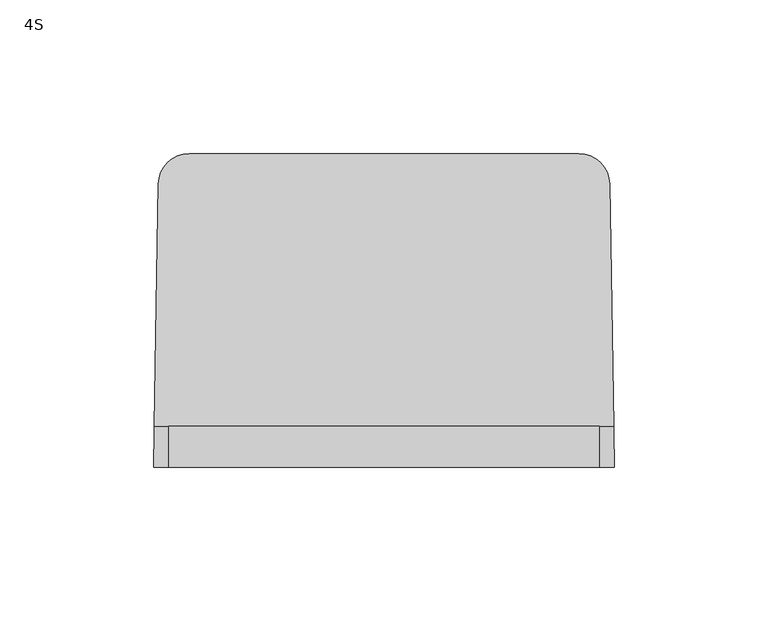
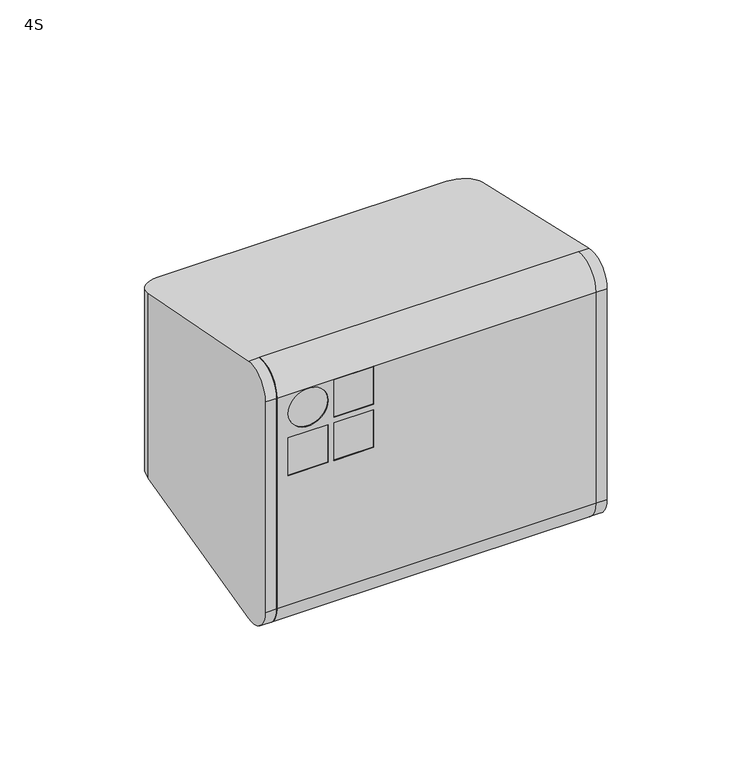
"""IFC4 building model written with IfcOpenShell, lengths in millimetres: proxy geometry, d&b xS-Series 4S Point Source : 4S."""

from ifc_helpers import new_model, si_unit, point, frame, frame_2d, origin, place, context, project, spatial, polyline, circle_curve, ellipse_curve, trimmed, segment, composite_curve, outline, extrude, source, transform, mapped, element, save
from ifc_brep_helpers import plane_surface, cylinder_surface, revolved_surface, advanced_brep


def proxy_4s_222f0351(model_context):
    return source(origin(), model_context, "Body", "SolidModel", [
        extrude(outline(composite_curve([segment(polyline([(-37.7129714, 54.4631575), (-37.7129714, -54.4631575)]), True, "CONTINUOUS"), segment(trimmed(circle_curve(frame_2d((-40.0, -48.9161313)), 6.0), [point((-37.7129714, -54.4631575))], [point((-46.0, -48.9161313))], False, "CARTESIAN"), True, "CONTINUOUS"), segment(polyline([(-46.0, -48.9161313), (-46.0, 48.9161313)]), True, "CONTINUOUS"), segment(trimmed(circle_curve(frame_2d((-40.0, 48.9161313)), 6.0), [point((-46.0, 48.9161313))], [point((-37.7129714, 54.4631575))], False, "CARTESIAN"), True, "CONTINUOUS")], self_intersect=False)), frame((-70.0, 0.0, 0.0), z_axis=(1.0, 0.0, 0.0), x_axis=(0.0, 1.0, 0.0)), (0.0, 0.0, 1.0), 140.0),
        advanced_brep(
        [(-27.5, -51.0, 31.1772445), (-27.5, -46.0, 31.1772445), (-45.0, -46.0, 31.1772445), (-45.0, -51.0, 31.1772445), (-45.0, -46.0, 48.6772445), (-45.0, -51.0, 48.6772445), (-27.5, -46.0, 48.6772445), (-27.5, -51.0, 48.6772445), (-27.5, -51.0, 11.1772445), (-27.5, -46.0, 11.1772445), (-45.0, -46.0, 11.1772445), (-45.0, -51.0, 11.1772445), (-45.0, -46.0, 28.6772445), (-45.0, -51.0, 28.6772445), (-27.5, -46.0, 28.6772445), (-27.5, -51.0, 28.6772445), (-47.5, -51.0, 11.1772445), (-47.5, -46.0, 11.1772445), (-65.0, -46.0, 11.1772445), (-65.0, -51.0, 11.1772445), (-65.0, -46.0, 28.6772445), (-65.0, -51.0, 28.6772445), (-47.5, -46.0, 28.6772445), (-47.5, -51.0, 28.6772445), (-65.0, -51.0, 39.9272445), (-65.0, -46.0, 39.9272445), (-47.5, -46.0, 39.9272445), (-47.5, -51.0, 39.9272445), (70.0, -51.0, -48.9161313), (70.0, -37.7129714, -59.6757549), (70.0, -37.7129714, -54.4631575), (70.0, -46.0, -48.9161313), (70.0, -46.0, 48.9161313), (70.0, -37.7129714, 54.4631575), (70.0, -37.7129714, 59.6757549), (70.0, -51.0, 48.9161313), (-70.0, -51.0, -48.9161313), (-70.0, -51.0, 48.9161313), (-70.0, -37.7129714, 59.6757549), (-70.0, -37.7129714, 54.4631575), (-70.0, -46.0, 48.9161313), (-70.0, -46.0, -48.9161313), (-70.0, -37.7129714, -54.4631575), (-70.0, -37.7129714, -59.6757549)],
        [
            (0, 1),
            (1, 2),
            (2, 3),
            (3, 0),
            (2, 4),
            (4, 5),
            (5, 3),
            (4, 6),
            (6, 7),
            (7, 5),
            (0, 7),
            (6, 1),
            (8, 9),
            (9, 10),
            (10, 11),
            (11, 8),
            (10, 12),
            (12, 13),
            (13, 11),
            (12, 14),
            (14, 15),
            (15, 13),
            (8, 15),
            (14, 9),
            (16, 17),
            (17, 18),
            (18, 19),
            (19, 16),
            (18, 20),
            (20, 21),
            (21, 19),
            (20, 22),
            (22, 23),
            (23, 21),
            (16, 23),
            (22, 17),
            (24, 25),
            (25, 26, circle_curve(frame((-56.25, -46.0, 39.9272445), z_axis=(0.0, 1.0, 0.0), x_axis=(1.0, 0.0, 0.0)), 8.75)),
            (26, 27),
            (27, 24, circle_curve(frame((-56.25, -51.0, 39.9272445), z_axis=(0.0, -1.0, 0.0), x_axis=(1.0, 0.0, 0.0)), 8.75)),
            (24, 27, circle_curve(frame((-56.25, -51.0, 39.9272445), z_axis=(0.0, -1.0, 0.0), x_axis=(1.0, 0.0, 0.0)), 8.75)),
            (26, 25, circle_curve(frame((-56.25, -46.0, 39.9272445), z_axis=(0.0, 1.0, 0.0), x_axis=(1.0, 0.0, 0.0)), 8.75)),
            (28, 29, circle_curve(frame((70.0, -40.0, -48.9161313), z_axis=(1.0, 0.0, 0.0), x_axis=(0.0, -1.0, 0.0)), 11.0)),
            (29, 30),
            (30, 31, circle_curve(frame((70.0, -40.0, -48.9161313), z_axis=(-1.0, 0.0, 0.0), x_axis=(0.0, -1.0, 0.0)), 6.0)),
            (31, 32),
            (32, 33, circle_curve(frame((70.0, -40.0, 48.9161313), z_axis=(-1.0, 0.0, 0.0), x_axis=(0.0, -1.0, 0.0)), 6.0)),
            (33, 34),
            (34, 35, circle_curve(frame((70.0, -40.0, 48.9161313), z_axis=(1.0, 0.0, 0.0), x_axis=(0.0, -1.0, 0.0)), 11.0)),
            (35, 28),
            (36, 37),
            (37, 38, circle_curve(frame((-70.0, -40.0, 48.9161313), z_axis=(-1.0, 0.0, 0.0), x_axis=(0.0, -1.0, 0.0)), 11.0)),
            (38, 39),
            (39, 40, circle_curve(frame((-70.0, -40.0, 48.9161313), z_axis=(1.0, 0.0, 0.0), x_axis=(0.0, -1.0, 0.0)), 6.0)),
            (40, 41),
            (41, 42, circle_curve(frame((-70.0, -40.0, -48.9161313), z_axis=(1.0, 0.0, 0.0), x_axis=(0.0, -1.0, 0.0)), 6.0)),
            (42, 43),
            (43, 36, circle_curve(frame((-70.0, -40.0, -48.9161313), z_axis=(-1.0, 0.0, 0.0), x_axis=(0.0, -1.0, 0.0)), 11.0)),
            (28, 36),
            (43, 29),
            (42, 30),
            (41, 31),
            (40, 32),
            (39, 33),
            (38, 34),
            (37, 35),
        ],
        [
            plane_surface(frame((-45.0, -51.0, 31.1772445), z_axis=(0.0, 0.0, 1.0), x_axis=(0.0, 1.0, 0.0))),
            plane_surface(frame((-45.0, -51.0, 48.6772445), z_axis=(1.0, 0.0, 0.0), x_axis=(0.0, 1.0, 0.0))),
            plane_surface(frame((-27.5, -51.0, 48.6772445), z_axis=(0.0, 0.0, -1.0), x_axis=(0.0, 1.0, 0.0))),
            plane_surface(frame((-27.5, -51.0, 31.1772445), z_axis=(-1.0, 0.0, 0.0), x_axis=(0.0, 1.0, 0.0))),
            plane_surface(frame((-45.0, -51.0, 11.1772445), z_axis=(0.0, 0.0, 1.0), x_axis=(0.0, 1.0, 0.0))),
            plane_surface(frame((-45.0, -51.0, 28.6772445), z_axis=(1.0, 0.0, 0.0), x_axis=(0.0, 1.0, 0.0))),
            plane_surface(frame((-27.5, -51.0, 28.6772445), z_axis=(0.0, 0.0, -1.0), x_axis=(0.0, 1.0, 0.0))),
            plane_surface(frame((-27.5, -51.0, 11.1772445), z_axis=(-1.0, 0.0, 0.0), x_axis=(0.0, 1.0, 0.0))),
            plane_surface(frame((-65.0, -51.0, 11.1772445), z_axis=(0.0, 0.0, 1.0), x_axis=(0.0, 1.0, 0.0))),
            plane_surface(frame((-65.0, -51.0, 28.6772445), z_axis=(1.0, 0.0, 0.0), x_axis=(0.0, 1.0, 0.0))),
            plane_surface(frame((-47.5, -51.0, 28.6772445), z_axis=(0.0, 0.0, -1.0), x_axis=(0.0, 1.0, 0.0))),
            plane_surface(frame((-47.5, -51.0, 11.1772445), z_axis=(-1.0, 0.0, 0.0), x_axis=(0.0, 1.0, 0.0))),
            revolved_surface(polyline([(-47.5, -51.0, 39.9272445), (-47.5, -46.0, 39.9272445)]), (-56.25, -142.2477083, 39.9272445), (0.0, -1.0, 0.0)),
            plane_surface(frame((70.0, -51.0, -48.9161313), z_axis=(1.0, 0.0, 0.0), x_axis=(0.0, 0.0, -1.0))),
            plane_surface(frame((-70.0, -51.0, -48.9161313), z_axis=(-1.0, 0.0, 0.0), x_axis=(0.0, 0.0, 1.0))),
            cylinder_surface(frame((-70.0, -40.0, -48.9161313), z_axis=(1.0, 0.0, 0.0), x_axis=(0.0, -1.0, 0.0)), 11.0),
            plane_surface(frame((70.0, -37.7129714, -59.6757549), z_axis=(0.0, 1.0, 0.0), x_axis=(-1.0, 0.0, 0.0))),
            revolved_surface(polyline([(-70.0, -46.0, -48.9161313), (70.0, -46.0, -48.9161313)]), (-70.0, -40.0, -48.9161313), (-1.0, 0.0, 0.0)),
            plane_surface(frame((70.0, -46.0, -48.9161313), z_axis=(0.0, 1.0, 0.0), x_axis=(-1.0, 0.0, 0.0))),
            revolved_surface(polyline([(-70.0, -46.0, 48.9161313), (70.0, -46.0, 48.9161313)]), (-70.0, -40.0, 48.9161313), (-1.0, 0.0, 0.0)),
            plane_surface(frame((70.0, -37.7129714, 54.4631575), z_axis=(0.0, 1.0, 0.0), x_axis=(-1.0, 0.0, 0.0))),
            cylinder_surface(frame((-70.0, -40.0, 48.9161313), z_axis=(1.0, 0.0, 0.0), x_axis=(0.0, -1.0, 0.0)), 11.0),
            plane_surface(frame((70.0, -51.0, 48.9161313), z_axis=(0.0, -1.0, 0.0), x_axis=(-1.0, 0.0, 0.0))),
        ],
        [
            (0, [[1, 2, 3, 4]]),
            (1, [[-3, 5, 6, 7]]),
            (2, [[-6, 8, 9, 10]]),
            (3, [[-1, 11, -9, 12]]),
            (4, [[13, 14, 15, 16]]),
            (5, [[-15, 17, 18, 19]]),
            (6, [[-18, 20, 21, 22]]),
            (7, [[-13, 23, -21, 24]]),
            (8, [[25, 26, 27, 28]]),
            (9, [[-27, 29, 30, 31]]),
            (10, [[-30, 32, 33, 34]]),
            (11, [[-25, 35, -33, 36]]),
            (12, [[37, 38, 39, 40]]),
            (12, [[-37, 41, -39, 42]]),
            (13, [[43, 44, 45, 46, 47, 48, 49, 50]]),
            (14, [[51, 52, 53, 54, 55, 56, 57, 58]]),
            (15, [[-43, 59, -58, 60]]),
            (16, [[-44, -60, -57, 61]]),
            (17, [[-45, -61, -56, 62]]),
            (18, [[-46, -62, -55, 63], [-2, -12, -8, -5], [-14, -24, -20, -17], [-26, -36, -32, -29], [-38, -42]]),
            (19, [[-47, -63, -54, 64]]),
            (20, [[-48, -64, -53, 65]]),
            (21, [[-49, -65, -52, 66]]),
            (22, [[-50, -66, -51, -59], [-4, -7, -10, -11], [-16, -19, -22, -23], [-28, -31, -34, -35], [-40, -41]]),
        ],
    ),
        extrude(outline(polyline([(-27.5, -51.0), (-45.0, -51.0), (-45.0, -46.0), (-27.5, -46.0), (-27.5, -51.0)])), frame((0.0, 0.0, 31.1622558), z_axis=(0.0, 0.0, 1.0), x_axis=(1.0, 0.0, 0.0)), (0.0, 0.0, 1.0), 17.5),
        extrude(outline(polyline([(-27.5, -51.0), (-45.0, -51.0), (-45.0, -46.0), (-27.5, -46.0), (-27.5, -51.0)])), frame((0.0, 0.0, 11.1622558), z_axis=(0.0, 0.0, 1.0), x_axis=(1.0, 0.0, 0.0)), (0.0, 0.0, 1.0), 17.5),
        extrude(outline(polyline([(-47.5, -51.0), (-65.0, -51.0), (-65.0, -46.0), (-47.5, -46.0), (-47.5, -51.0)])), frame((0.0, 0.0, 11.1622558), z_axis=(0.0, 0.0, 1.0), x_axis=(1.0, 0.0, 0.0)), (0.0, 0.0, 1.0), 17.5),
        extrude(outline(composite_curve([segment(trimmed(circle_curve(frame_2d((39.9122558, -56.25)), 8.75), [point((39.9122558, -65.0))], [point((39.9122558, -47.5))], False, "CARTESIAN"), True, "CONTINUOUS"), segment(trimmed(circle_curve(frame_2d((39.9122558, -56.25)), 8.75), [point((39.9122558, -47.5))], [point((39.9122558, -65.0))], False, "CARTESIAN"), True, "CONTINUOUS")], self_intersect=False)), frame((0.0, -51.0, 0.0), z_axis=(0.0, 1.0, 0.0), x_axis=(0.0, 0.0, 1.0)), (0.0, 0.0, 1.0), 5.0),
        advanced_brep(
        [(57.4298657, 48.0, 23.0610927), (62.4298657, 48.0, 18.0610927), (62.4298657, 48.0, -18.0610927), (57.4298657, 48.0, -23.0610927), (-29.0610927, 48.0, -23.0610927), (-34.0610927, 48.0, -18.0610927), (-34.0610927, 48.0, 18.0610927), (-29.0610927, 48.0, 23.0610927), (-32.4913486, 48.0, 16.4913486), (-32.4913486, 48.0, -16.4913486), (-27.4913486, 48.0, -21.4913486), (-0.0804502, 48.0, -21.4913486), (-0.0804502, 48.0, 21.4913486), (-27.4913486, 48.0, 21.4913486), (57.4298657, 51.0, 23.0610927), (62.4298657, 51.0, 18.0610927), (62.4298657, 51.0, -18.0610927), (57.4298657, 51.0, -23.0610927), (-29.0610927, 51.0, -23.0610927), (-34.0610927, 51.0, -18.0610927), (-34.0610927, 51.0, 18.0610927), (-29.0610927, 51.0, 23.0610927), (-32.4913486, 32.0, -16.4913486), (-32.4913486, 32.0, 16.4913486), (-27.4913486, 32.0, 21.4913486), (-0.0804502, 32.0, 21.4913486), (-0.0804502, 32.0, -21.4913486), (-27.4913486, 32.0, -21.4913486), (70.0, -51.0, -48.9161313), (70.0, -51.0, 48.9161313), (70.0, -37.7129714, 59.6757549), (70.0, -37.7129714, -59.6757549), (-70.0, -51.0, -48.9161313), (-70.0, -37.7129714, -59.6757549), (-70.0, -37.7129714, 59.6757549), (-70.0, -51.0, 48.9161313), (-74.7177462, -37.7129714, -59.6757549), (-73.3763698, 41.1700217, -42.9086571), (-63.3778153, 51.0, -40.8192307), (63.3841074, 51.0, -40.8192307), (73.3826619, 41.1700217, -42.9086571), (74.7240383, -37.7129714, -59.6757549), (-73.3763698, 41.1700217, 42.9086571), (-74.7177462, -37.7129714, 59.6757549), (74.7240383, -37.7129714, 59.6757549), (73.3826619, 41.1700217, 42.9086571), (63.3841074, 51.0, 40.8192307), (-63.3778153, 51.0, 40.8192307), (74.9499793, -51.0, -48.9161313), (74.9499793, -51.0, 48.9161313), (-74.9436872, -51.0, -48.9161313), (-74.9436872, -51.0, 48.9161313)],
        [
            (0, 1, circle_curve(frame((57.4298657, 48.0, 18.0610927), z_axis=(0.0, 1.0, 0.0), x_axis=(0.0, 0.0, 1.0)), 5.0)),
            (1, 2),
            (2, 3, circle_curve(frame((57.4298657, 48.0, -18.0610927), z_axis=(0.0, 1.0, 0.0), x_axis=(0.0, 0.0, 1.0)), 5.0)),
            (3, 4),
            (4, 5, circle_curve(frame((-29.0610927, 48.0, -18.0610927), z_axis=(0.0, 1.0, 0.0), x_axis=(0.0, 0.0, 1.0)), 5.0)),
            (5, 6),
            (6, 7, circle_curve(frame((-29.0610927, 48.0, 18.0610927), z_axis=(0.0, 1.0, 0.0), x_axis=(0.0, 0.0, 1.0)), 5.0)),
            (7, 0),
            (8, 9),
            (9, 10, circle_curve(frame((-27.4913486, 48.0, -16.4913486), z_axis=(0.0, -1.0, 0.0), x_axis=(0.0, 0.0, 1.0)), 5.0)),
            (10, 11),
            (11, 12),
            (12, 13),
            (13, 8, circle_curve(frame((-27.4913486, 48.0, 16.4913486), z_axis=(0.0, -1.0, 0.0), x_axis=(0.0, 0.0, 1.0)), 5.0)),
            (0, 14),
            (14, 15, circle_curve(frame((57.4298657, 51.0, 18.0610927), z_axis=(0.0, 1.0, 0.0), x_axis=(0.0, 0.0, 1.0)), 5.0)),
            (15, 1),
            (15, 16),
            (16, 2),
            (16, 17, circle_curve(frame((57.4298657, 51.0, -18.0610927), z_axis=(0.0, 1.0, 0.0), x_axis=(0.0, 0.0, 1.0)), 5.0)),
            (17, 3),
            (17, 18),
            (18, 4),
            (18, 19, circle_curve(frame((-29.0610927, 51.0, -18.0610927), z_axis=(0.0, 1.0, 0.0), x_axis=(0.0, 0.0, 1.0)), 5.0)),
            (19, 5),
            (19, 20),
            (20, 6),
            (20, 21, circle_curve(frame((-29.0610927, 51.0, 18.0610927), z_axis=(0.0, 1.0, 0.0), x_axis=(0.0, 0.0, 1.0)), 5.0)),
            (21, 7),
            (21, 14),
            (22, 23),
            (23, 24, circle_curve(frame((-27.4913486, 32.0, 16.4913486), z_axis=(0.0, 1.0, 0.0), x_axis=(0.0, 0.0, 1.0)), 5.0)),
            (24, 25),
            (25, 26),
            (26, 27),
            (27, 22, circle_curve(frame((-27.4913486, 32.0, -16.4913486), z_axis=(0.0, 1.0, 0.0), x_axis=(0.0, 0.0, 1.0)), 5.0)),
            (28, 29),
            (29, 30, circle_curve(frame((70.0, -40.0, 48.9161313), z_axis=(-1.0, 0.0, 0.0), x_axis=(0.0, -1.0, 0.0)), 11.0)),
            (30, 31),
            (31, 28, circle_curve(frame((70.0, -40.0, -48.9161313), z_axis=(-1.0, 0.0, 0.0), x_axis=(0.0, -1.0, 0.0)), 11.0)),
            (32, 33, circle_curve(frame((-70.0, -40.0, -48.9161313), z_axis=(1.0, 0.0, 0.0), x_axis=(0.0, -1.0, 0.0)), 11.0)),
            (33, 34),
            (34, 35, circle_curve(frame((-70.0, -40.0, 48.9161313), z_axis=(1.0, 0.0, 0.0), x_axis=(0.0, -1.0, 0.0)), 11.0)),
            (35, 32),
            (22, 9),
            (8, 23),
            (13, 24),
            (12, 25),
            (11, 26),
            (10, 27),
            (36, 37),
            (37, 38, ellipse_curve(frame((-63.3778153, 41.0, -42.9447963), z_axis=(0.0, 0.2079116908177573, -0.9781476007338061), x_axis=(0.0, 0.978147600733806, 0.207911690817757)), 10.2234059, 10.0)),
            (38, 39),
            (39, 40, ellipse_curve(frame((63.3841074, 41.0, -42.9447963), z_axis=(0.0, 0.2079116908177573, -0.9781476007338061), x_axis=(0.0, 0.978147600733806, 0.207911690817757)), 10.2234059, 10.0)),
            (40, 41),
            (41, 31),
            (31, 33),
            (33, 36),
            (30, 34),
            (42, 43),
            (43, 34),
            (30, 44),
            (44, 45),
            (45, 46, ellipse_curve(frame((63.3841074, 41.0, 42.9447963), z_axis=(0.0, 0.20791169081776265, 0.9781476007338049), x_axis=(0.0, -0.9781476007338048, 0.20791169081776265)), 10.2234059, 10.0)),
            (46, 47),
            (47, 42, ellipse_curve(frame((-63.3778153, 41.0, 42.9447963), z_axis=(0.0, 0.20791169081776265, 0.9781476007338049), x_axis=(0.0, -0.9781476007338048, 0.20791169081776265)), 10.2234059, 10.0)),
            (38, 47),
            (46, 39),
            (41, 48, ellipse_curve(frame((74.7629284, -40.0, -48.9161313), z_axis=(-0.9998554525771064, -0.017002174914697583, 0.0), x_axis=(0.01700217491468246, -0.9998554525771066, 0.0)), 11.0015903, 11.0)),
            (48, 28),
            (29, 49),
            (49, 44, ellipse_curve(frame((74.7629284, -40.0, 48.9161313), z_axis=(-0.9998554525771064, -0.017002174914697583, 0.0), x_axis=(0.01700217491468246, -0.9998554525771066, 0.0)), 11.0015903, 11.0)),
            (48, 49),
            (32, 50),
            (50, 36, ellipse_curve(frame((-74.7566362, -40.0, -48.9161313), z_axis=(0.9998554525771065, -0.017002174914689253, 0.0), x_axis=(0.017002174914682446, 0.9998554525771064, 0.0)), 11.0015903, 11.0)),
            (43, 51, ellipse_curve(frame((-74.7566362, -40.0, 48.9161313), z_axis=(0.9998554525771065, -0.017002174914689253, 0.0), x_axis=(0.017002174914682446, 0.9998554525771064, 0.0)), 11.0015903, 11.0)),
            (51, 35),
            (51, 50),
            (40, 45),
            (42, 37),
        ],
        [
            plane_surface(frame((57.4298657, 48.0, 23.0610927), z_axis=(0.0, 1.0, 0.0), x_axis=(-1.0, 0.0, 0.0))),
            revolved_surface(polyline([(57.4298657, 51.0, 23.0610927), (57.4298657, 48.0, 23.0610927)]), (57.4298657, 48.0, 18.0610927), (0.0, 1.0, 0.0)),
            plane_surface(frame((62.4298657, 51.0, 18.0610927), z_axis=(-1.0, 0.0, 0.0), x_axis=(0.0, -1.0, 0.0))),
            revolved_surface(polyline([(57.4298657, 51.0, -13.0610927), (57.4298657, 48.0, -13.0610927)]), (57.4298657, 48.0, -18.0610927), (0.0, 1.0, 0.0)),
            plane_surface(frame((57.4298657, 51.0, -23.0610927), z_axis=(0.0, 0.0, 1.0), x_axis=(0.0, -1.0, 0.0))),
            revolved_surface(polyline([(-29.0610927, 51.0, -13.0610927), (-29.0610927, 48.0, -13.0610927)]), (-29.0610927, 48.0, -18.0610927), (0.0, 1.0, 0.0)),
            plane_surface(frame((-34.0610927, 51.0, -18.0610927), z_axis=(1.0, 0.0, 0.0), x_axis=(0.0, -1.0, 0.0))),
            revolved_surface(polyline([(-29.0610927, 51.0, 23.0610927), (-29.0610927, 48.0, 23.0610927)]), (-29.0610927, 48.0, 18.0610927), (0.0, 1.0, 0.0)),
            plane_surface(frame((-29.0610927, 51.0, 23.0610927), z_axis=(0.0, 0.0, -1.0), x_axis=(0.0, -1.0, 0.0))),
            plane_surface(frame((-32.4913486, 32.0, 10.0), z_axis=(0.0, 1.0, 0.0), x_axis=(0.0, 0.0, -1.0))),
            plane_surface(frame((70.0, -51.0, -48.9161313), z_axis=(-1.0, 0.0, 0.0), x_axis=(0.0, 0.0, 1.0))),
            plane_surface(frame((-70.0, -51.0, -48.9161313), z_axis=(1.0, 0.0, 0.0), x_axis=(0.0, 0.0, -1.0))),
            plane_surface(frame((-32.4913486, 51.0, -16.4913486), z_axis=(1.0, 0.0, 0.0), x_axis=(0.0, -1.0, 0.0))),
            revolved_surface(polyline([(-27.4913486, 48.0, 21.4913486), (-27.4913486, 32.0, 21.4913486)]), (-27.4913486, 32.0, 16.4913486), (0.0, 1.0, 0.0)),
            plane_surface(frame((-27.4913486, 51.0, 21.4913486), z_axis=(0.0, 0.0, -1.0), x_axis=(0.0, -1.0, 0.0))),
            plane_surface(frame((-0.0804502, 51.0, 21.4913486), z_axis=(-1.0, 0.0, 0.0), x_axis=(0.0, -1.0, 0.0))),
            plane_surface(frame((-0.0804502, 51.0, -21.4913486), z_axis=(0.0, 0.0, 1.0), x_axis=(0.0, -1.0, 0.0))),
            revolved_surface(polyline([(-27.4913486, 48.0, -11.491348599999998), (-27.4913486, 32.0, -11.491348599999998)]), (-27.4913486, 32.0, -16.4913486), (0.0, 1.0, 0.0)),
            plane_surface(frame((-74.9436872, 51.0, -40.8192307), z_axis=(0.0, 0.2079116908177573, -0.9781476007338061), x_axis=(1.0, 0.0, 0.0))),
            plane_surface(frame((-74.9436872, -37.7129714, -59.6757549), z_axis=(0.0, -1.0, 0.0), x_axis=(1.0, 0.0, 0.0))),
            plane_surface(frame((-74.9436872, -37.7129714, 59.6757549), z_axis=(0.0, 0.20791169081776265, 0.9781476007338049), x_axis=(1.0, 0.0, 0.0))),
            plane_surface(frame((-74.9436872, 51.0, 40.8192307), z_axis=(0.0, 1.0, 0.0), x_axis=(1.0, 0.0, 0.0))),
            cylinder_surface(frame((70.0, -40.0, -48.9161313), z_axis=(1.0, 0.0, 0.0), x_axis=(0.0, -1.0, 0.0)), 11.0),
            cylinder_surface(frame((70.0, -40.0, 48.9161313), z_axis=(1.0, 0.0, 0.0), x_axis=(0.0, -1.0, 0.0)), 11.0),
            plane_surface(frame((74.9499793, -51.0, 48.9161313), z_axis=(0.0, -1.0, 0.0), x_axis=(-1.0, 0.0, 0.0))),
            cylinder_surface(frame((-74.9436872, -40.0, -48.9161313), z_axis=(1.0, 0.0, 0.0), x_axis=(0.0, -1.0, 0.0)), 11.0),
            cylinder_surface(frame((-74.9436872, -40.0, 48.9161313), z_axis=(1.0, 0.0, 0.0), x_axis=(0.0, -1.0, 0.0)), 11.0),
            plane_surface(frame((-70.0, -51.0, 48.9161313), z_axis=(0.0, -1.0, 0.0), x_axis=(-1.0, 0.0, 0.0))),
            plane_surface(frame((75.055594, -57.2109369, -65.0), z_axis=(0.9998554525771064, 0.017002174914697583, 0.0), x_axis=(0.0, 0.0, 1.0))),
            cylinder_surface(frame((63.3841074, 41.0, 65.0), z_axis=(0.0, 0.0, 1.0), x_axis=(0.0, 1.0, 0.0)), 10.0),
            plane_surface(frame((-73.3763698, 41.1700217, -65.0), z_axis=(-0.9998554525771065, 0.017002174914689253, 0.0), x_axis=(0.0, 0.0, 1.0))),
            cylinder_surface(frame((-63.3778153, 41.0, 65.0), z_axis=(0.0, 0.0, 1.0), x_axis=(0.0, 1.0, 0.0)), 10.0),
        ],
        [
            (0, [[1, 2, 3, 4, 5, 6, 7, 8], [9, 10, 11, 12, 13, 14]]),
            (1, [[-1, 15, 16, 17]]),
            (2, [[-2, -17, 18, 19]]),
            (3, [[-3, -19, 20, 21]]),
            (4, [[-4, -21, 22, 23]]),
            (5, [[-5, -23, 24, 25]]),
            (6, [[-6, -25, 26, 27]]),
            (7, [[-7, -27, 28, 29]]),
            (8, [[-8, -29, 30, -15]]),
            (9, [[31, 32, 33, 34, 35, 36]]),
            (10, [[37, 38, 39, 40]]),
            (11, [[41, 42, 43, 44]]),
            (12, [[-31, 45, -9, 46]]),
            (13, [[-32, -46, -14, 47]]),
            (14, [[-33, -47, -13, 48]]),
            (15, [[-34, -48, -12, 49]]),
            (16, [[-35, -49, -11, 50]]),
            (17, [[-36, -50, -10, -45]]),
            (18, [[51, 52, 53, 54, 55, 56, 57, 58]]),
            (19, [[-39, 59, -42, -57]]),
            (20, [[60, 61, -59, 62, 63, 64, 65, 66]]),
            (21, [[67, -65, 68, -53], [-16, -30, -28, -26, -24, -22, -20, -18]]),
            (22, [[-40, -56, 69, 70]]),
            (23, [[-38, 71, 72, -62]]),
            (24, [[-37, -70, 73, -71]]),
            (25, [[-41, 74, 75, -58]]),
            (26, [[-43, -61, 76, 77]]),
            (27, [[-44, -77, 78, -74]]),
            (28, [[79, -63, -72, -73, -69, -55]]),
            (29, [[-79, -54, -68, -64]]),
            (30, [[80, -51, -75, -78, -76, -60]]),
            (31, [[-80, -66, -67, -52]]),
        ],
    ),
    ])


if __name__ == "__main__":
    model = new_model("IFC4")
    model_context = context("Model", 3, world=origin())
    ifc_project = project(units=[si_unit("LENGTHUNIT", "METRE", prefix="MILLI")], contexts=[model_context])
    site = spatial("IfcSite", under=ifc_project)
    building = spatial("IfcBuilding", under=site)
    placement = place(None, origin())
    proxy_4s_shape = proxy_4s_222f0351(model_context)
    element("IfcBuildingElementProxy", 1, Name="d&b xS-Series 4S Point Source : 4S", ObjectType="d&b xS-Series 4S Point Source : 4S", at=placement, inside=building, context=model_context, shape_type="MappedRepresentation", body=[
        mapped(proxy_4s_shape, transform((0.0, 0.0, 0.0), x_axis=(1.0, 0.0, 0.0), y_axis=(0.0, 1.0, 0.0), z_axis=(0.0, 0.0, 1.0))),
    ])
    save(model, "model.ifc")
